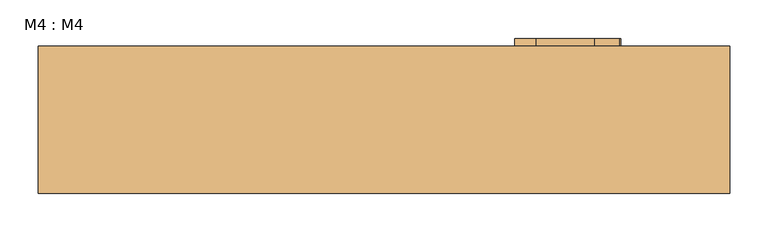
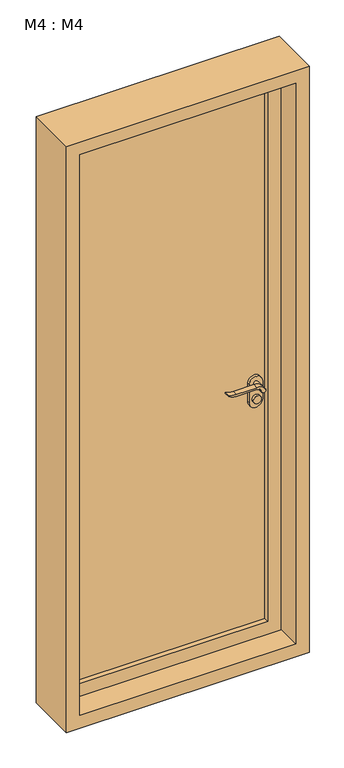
"""IFC4 building model written with IfcOpenShell, lengths in millimetres: door geometry, M4 : M4."""

from ifc_helpers import new_model, si_unit, point, frame, frame_2d, origin, place, context, project, spatial, polyline, circle_curve, trimmed, segment, composite_curve, outline, extrude, source, transform, mapped, element, save


def m4_m4_ba408c81(model_context):
    return source(origin(), model_context, "Body", "SweptSolid", [
        extrude(outline(composite_curve([segment(trimmed(circle_curve(frame_2d((1000.0, 300.0)), 15.0), [point((1000.0, 285.0))], [point((1000.0, 315.0))], False, "CARTESIAN"), True, "CONTINUOUS"), segment(trimmed(circle_curve(frame_2d((1000.0, 300.0)), 15.0), [point((1000.0, 315.0))], [point((1000.0, 285.0))], False, "CARTESIAN"), True, "CONTINUOUS")], self_intersect=False)), frame((0.0, 35.0, 0.0), z_axis=(0.0, 1.0, 0.0), x_axis=(0.0, 0.0, 1.0)), (0.0, 0.0, 1.0), 10.0),
        extrude(outline(composite_curve([segment(trimmed(circle_curve(frame_2d((1000.0, 300.0)), 15.0), [point((1000.0, 285.0))], [point((1000.0, 315.0))], False, "CARTESIAN"), True, "CONTINUOUS"), segment(trimmed(circle_curve(frame_2d((1000.0, 300.0)), 15.0), [point((1000.0, 315.0))], [point((1000.0, 285.0))], False, "CARTESIAN"), True, "CONTINUOUS")], self_intersect=False)), frame((0.0, -45.0, 0.0), z_axis=(0.0, 1.0, 0.0), x_axis=(0.0, 0.0, 1.0)), (0.0, 0.0, 1.0), 10.0),
        extrude(outline(composite_curve([segment(trimmed(circle_curve(frame_2d((1042.7555521, 276.3324871)), 37.2832219), [point((1064.6523287, 306.5081363))], [point((1080.0, 274.6325667))], False, "CARTESIAN"), True, "CONTINUOUS"), segment(polyline([(1080.0, 274.6325667), (1080.0, 198.3564091)]), True, "CONTINUOUS"), segment(trimmed(circle_curve(frame_2d((1163.2850638, 198.4227909)), 83.2850902), [point((1080.0, 198.3564091))], [point((1085.0, 170.0))], True, "CARTESIAN"), True, "CONTINUOUS"), segment(polyline([(1085.0, 170.0), (1082.2135558, 170.0)]), True, "CONTINUOUS"), segment(trimmed(circle_curve(frame_2d((1132.2709207, 201.9396612)), 59.3791355), [point((1082.2135558, 170.0))], [point((1073.0, 198.3564091))], False, "CARTESIAN"), True, "CONTINUOUS"), segment(polyline([(1073.0, 198.3564091), (1073.0, 274.6138099)]), True, "CONTINUOUS"), segment(trimmed(circle_curve(frame_2d((1054.8738613, 274.6138099)), 18.1261387), [point((1073.0, 274.6138099))], [point((1060.0, 292.0))], True, "CARTESIAN"), True, "CONTINUOUS"), segment(trimmed(circle_curve(frame_2d((1060.0, 300.0)), 8.0), [point((1060.0, 292.0))], [point((1064.6523287, 306.5081363))], False, "CARTESIAN"), True, "CONTINUOUS")], self_intersect=False)), frame((0.0, 65.0, 0.0), z_axis=(0.0, 1.0, 0.0), x_axis=(0.0, 0.0, 1.0)), (0.0, 0.0, 1.0), 20.0),
        extrude(outline(composite_curve([segment(trimmed(circle_curve(frame_2d((1060.0, 300.0)), 8.0), [point((1059.9999903, 292.0))], [point((1064.6523287, 306.5081363))], False, "CARTESIAN"), True, "CONTINUOUS"), segment(trimmed(circle_curve(frame_2d((1042.7555521, 276.3324871)), 37.2832219), [point((1064.6523287, 306.5081363))], [point((1080.0, 274.6325667))], False, "CARTESIAN"), True, "CONTINUOUS"), segment(polyline([(1080.0, 274.6325667), (1080.0, 198.3564091)]), True, "CONTINUOUS"), segment(trimmed(circle_curve(frame_2d((1163.2850638, 198.4227909)), 83.2850902), [point((1080.0, 198.3564091))], [point((1085.0, 170.0))], True, "CARTESIAN"), True, "CONTINUOUS"), segment(polyline([(1085.0, 170.0), (1082.2135558, 170.0)]), True, "CONTINUOUS"), segment(trimmed(circle_curve(frame_2d((1132.2709207, 201.9396612)), 59.3791355), [point((1082.2135558, 170.0))], [point((1073.0, 198.3564091))], False, "CARTESIAN"), True, "CONTINUOUS"), segment(polyline([(1073.0, 198.3564091), (1073.0, 274.6138122)]), True, "CONTINUOUS"), segment(trimmed(circle_curve(frame_2d((1054.8738682, 274.6138122)), 18.1261318), [point((1073.0, 274.6138122))], [point((1059.9999903, 292.0))], True, "CARTESIAN"), True, "CONTINUOUS")], self_intersect=False)), frame((0.0, -85.0, 0.0), z_axis=(0.0, 1.0, 0.0), x_axis=(0.0, 0.0, 1.0)), (0.0, 0.0, 1.0), 20.0),
        extrude(outline(composite_curve([segment(trimmed(circle_curve(frame_2d((1060.0, 300.0)), 8.0), [point((1060.0, 292.0))], [point((1060.0, 308.0))], False, "CARTESIAN"), True, "CONTINUOUS"), segment(trimmed(circle_curve(frame_2d((1060.0, 300.0)), 8.0), [point((1060.0, 308.0))], [point((1060.0, 292.0))], False, "CARTESIAN"), True, "CONTINUOUS")], self_intersect=False)), frame((0.0, 35.0, 0.0), z_axis=(0.0, 1.0, 0.0), x_axis=(0.0, 0.0, 1.0)), (0.0, 0.0, 1.0), 30.0),
        extrude(outline(composite_curve([segment(trimmed(circle_curve(frame_2d((1060.0, 300.0)), 8.0), [point((1060.0, 292.0))], [point((1060.0, 308.0))], False, "CARTESIAN"), True, "CONTINUOUS"), segment(trimmed(circle_curve(frame_2d((1060.0, 300.0)), 8.0), [point((1060.0, 308.0))], [point((1060.0, 292.0))], False, "CARTESIAN"), True, "CONTINUOUS")], self_intersect=False)), frame((0.0, -65.0, 0.0), z_axis=(0.0, 1.0, 0.0), x_axis=(0.0, 0.0, 1.0)), (0.0, 0.0, 1.0), 30.0),
        extrude(outline(composite_curve([segment(polyline([(990.0, 325.0), (1060.0, 325.0)]), True, "CONTINUOUS"), segment(trimmed(circle_curve(frame_2d((1060.0, 300.0)), 25.0), [point((1060.0, 325.0))], [point((1060.0, 275.0))], False, "CARTESIAN"), True, "CONTINUOUS"), segment(polyline([(1060.0, 275.0), (990.0, 275.0)]), True, "CONTINUOUS"), segment(trimmed(circle_curve(frame_2d((990.0, 300.0)), 25.0), [point((990.0, 275.0))], [point((990.0, 325.0))], False, "CARTESIAN"), True, "CONTINUOUS")], self_intersect=False)), frame((0.0, 25.0, 0.0), z_axis=(0.0, 1.0, 0.0), x_axis=(0.0, 0.0, 1.0)), (0.0, 0.0, 1.0), 10.0),
        extrude(outline(composite_curve([segment(polyline([(990.0, 325.0), (1060.0, 325.0)]), True, "CONTINUOUS"), segment(trimmed(circle_curve(frame_2d((1060.0, 300.0)), 25.0), [point((1060.0, 325.0))], [point((1060.0, 275.0))], False, "CARTESIAN"), True, "CONTINUOUS"), segment(polyline([(1060.0, 275.0), (990.0, 275.0)]), True, "CONTINUOUS"), segment(trimmed(circle_curve(frame_2d((990.0, 300.0)), 25.0), [point((990.0, 275.0))], [point((990.0, 325.0))], False, "CARTESIAN"), True, "CONTINUOUS")], self_intersect=False)), frame((0.0, -35.0, 0.0), z_axis=(0.0, 1.0, 0.0), x_axis=(0.0, 0.0, 1.0)), (0.0, 0.0, 1.0), 10.0),
        extrude(outline(polyline([(350.0, 5.2868922), (350.0, -4.7131078), (-350.0, -4.7131078), (-350.0, 5.2868922), (350.0, 5.2868922)])), frame((0.0, 0.0, 100.0), z_axis=(0.0, 0.0, 1.0), x_axis=(1.0, 0.0, 0.0)), (0.0, 0.0, 1.0), 2100.0),
        extrude(outline(polyline([(2300.0, 450.0), (2300.0, -450.0), (0.0, -450.0), (0.0, 450.0), (2300.0, 450.0)]), holes=[polyline([(2250.0, 400.0), (50.0, 400.0), (50.0, -400.0), (2250.0, -400.0), (2250.0, 400.0)])]), frame((0.0, -117.0, 0.0), z_axis=(0.0, 1.0, 0.0), x_axis=(0.0, 0.0, 1.0)), (0.0, 0.0, 1.0), 192.0),
        extrude(outline(polyline([(2250.0, 400.0), (2250.0, -400.0), (50.0, -400.0), (50.0, 400.0), (2250.0, 400.0)]), holes=[polyline([(2200.0, 350.0), (100.0, 350.0), (100.0, -350.0), (2200.0, -350.0), (2200.0, 350.0)])]), frame((0.0, -25.0, 0.0), z_axis=(0.0, 1.0, 0.0), x_axis=(0.0, 0.0, 1.0)), (0.0, 0.0, 1.0), 50.0),
    ])


if __name__ == "__main__":
    model = new_model("IFC4")
    model_context = context("Model", 3, world=origin())
    ifc_project = project(units=[si_unit("LENGTHUNIT", "METRE", prefix="MILLI")], contexts=[model_context])
    site = spatial("IfcSite", under=ifc_project)
    building = spatial("IfcBuilding", under=site)
    placement = place(None, origin())
    m4_m4_shape = m4_m4_ba408c81(model_context)
    element("IfcDoor", 1, ObjectType="M4 : M4", at=placement, inside=building, context=model_context, shape_type="MappedRepresentation", body=[
        mapped(m4_m4_shape, transform((0.0, 0.0, 0.0), x_axis=(1.0, 0.0, 0.0), y_axis=(0.0, 1.0, 0.0), z_axis=(0.0, 0.0, 1.0))),
    ])
    save(model, "model.ifc")
